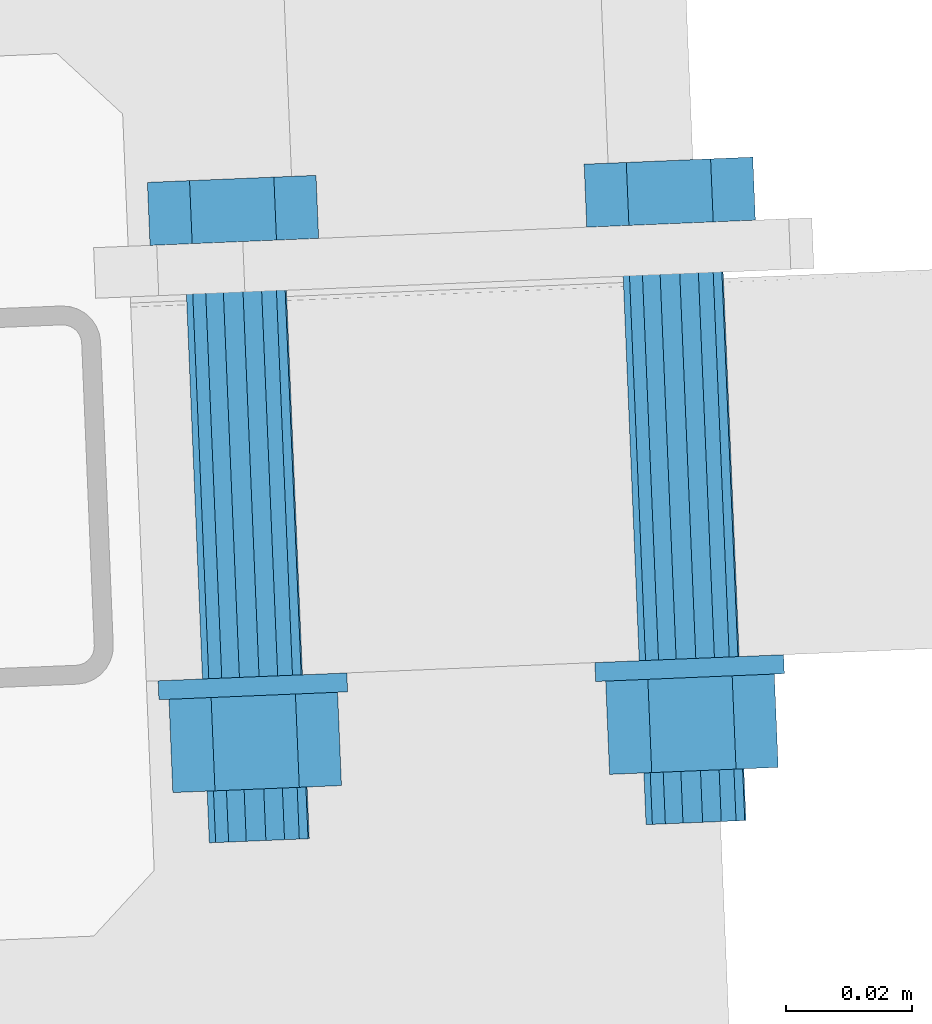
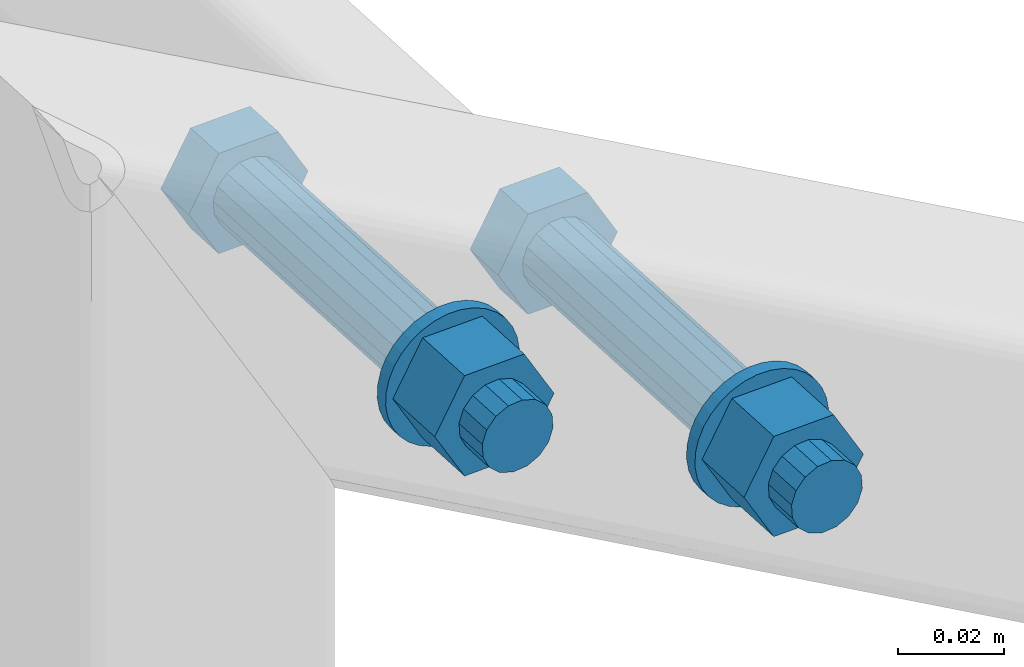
# One storey, part 81 of 288: 1 mechanical fastener.
"""IFC2X3 building model written with IfcOpenShell, lengths in millimetres."""

from ifc_helpers import new_model, entity, si_unit, converted_unit, origin_with_axes, place, context, project, spatial, faceted_brep, element, save


model = new_model("IFC2X3")

# Units and contexts
model_context = context("Model", 3, precision=1e-09, world=origin_with_axes())
ifc_project = project(units=[si_unit("LENGTHUNIT", "METRE", prefix="MILLI"), si_unit("AREAUNIT", "SQUARE_METRE"), si_unit("VOLUMEUNIT", "CUBIC_METRE"), converted_unit("PLANEANGLEUNIT", "DEGREE", entity("IfcPlaneAngleMeasure", 0.01745329), si_unit("PLANEANGLEUNIT", "RADIAN"), dimensions=[0, 0, 0, 0, 0, 0, 0])], contexts=[model_context])

# Site, building, storey
site_placement = place(None, origin_with_axes())
site = spatial("IfcSite", under=ifc_project, at=site_placement, Name="Remont ?wietlik?w nad MC w NCPP w Opolu", CompositionType="ELEMENT")
building_placement = place(site_placement, origin_with_axes())
building = spatial("IfcBuilding", under=site, at=building_placement, Name="Konstrukcja 1", CompositionType="ELEMENT")
storey_placement = place(building_placement, origin_with_axes())
storey = spatial("IfcBuildingStorey", under=building, at=storey_placement, Name="Default Storey", CompositionType="ELEMENT", Elevation=0.0)

# Mechanical fastener
mechanical_fastener_placement = place(None, origin_with_axes())
element("IfcMechanicalFastener", 1, at=mechanical_fastener_placement, inside=storey, ObjectType="-", NominalDiameter=16.0, NominalLength=95.0, context=model_context, shape_type="Brep", body=[
    faceted_brep([(-126.500600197, 956.459227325, 1239.93983739), (-126.917316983, 966.450540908, 1239.939836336), (-120.23562185, 966.72921921, 1228.356748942), (-119.818905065, 956.737905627, 1228.356749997), (-106.872239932, 967.286577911, 1228.356753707), (-106.455523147, 957.295264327, 1228.356754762), (-100.190553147, 967.565258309, 1239.939845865), (-99.773836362, 957.573944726, 1239.93984692), (-106.87224828, 967.286580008, 1251.522933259), (-106.455531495, 957.295266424, 1251.522934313), (-120.235630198, 966.729221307, 1251.522928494), (-119.818913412, 956.737907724, 1251.522929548)], [[[0, 1, 2, 3]], [[3, 2, 4, 5]], [[5, 4, 6, 7]], [[7, 6, 8, 9]], [[9, 8, 10, 11]], [[11, 10, 1, 0]], [[4, 2, 1, 10, 8, 6]], [[0, 3, 5, 7, 9, 11]]]),
    faceted_brep([(-57.278734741, 959.346322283, 1199.939862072), (-57.695451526, 969.337635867, 1199.939861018), (-51.013756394, 969.616314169, 1188.356773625), (-50.597039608, 959.625000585, 1188.356774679), (-37.650374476, 970.173672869, 1188.356778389), (-37.23365769, 960.182359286, 1188.356779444), (-30.968687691, 970.452353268, 1199.939870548), (-30.551970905, 960.461039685, 1199.939871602), (-37.650382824, 970.173674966, 1211.522957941), (-37.233666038, 960.182361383, 1211.522958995), (-51.013764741, 969.616316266, 1211.522953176), (-50.597047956, 959.625002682, 1211.52295423)], [[[0, 1, 2, 3]], [[3, 2, 4, 5]], [[5, 4, 6, 7]], [[7, 6, 8, 9]], [[9, 8, 10, 11]], [[11, 10, 1, 0]], [[4, 2, 1, 10, 8, 6]], [[0, 3, 5, 7, 9, 11]]]),
    faceted_brep([(-106.215029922, 957.305252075, 1235.939844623), (-103.339674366, 888.364954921, 1235.9398519), (-105.395997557, 888.279189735, 1233.593024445), (-108.271353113, 957.219486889, 1233.593017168), (-108.193104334, 888.162528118, 1232.212443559), (-111.06845989, 957.102825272, 1232.212436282), (-111.305160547, 888.032730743, 1232.008290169), (-114.180516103, 956.973027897, 1232.008282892), (-114.258383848, 887.909558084, 1233.011644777), (-117.133739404, 956.849855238, 1233.0116375), (-116.603172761, 887.811762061, 1235.069755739), (-119.478528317, 956.752059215, 1235.069748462), (-117.982554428, 887.754231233, 1237.869294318), (-120.857909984, 956.694528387, 1237.869287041), (-118.186530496, 887.745724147, 1240.984056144), (-121.061886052, 956.686021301, 1240.984048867), (-117.184047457, 887.787535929, 1243.939846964), (-120.059403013, 956.727833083, 1243.939839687), (-115.127724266, 887.873301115, 1246.286674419), (-118.003079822, 956.813598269, 1246.286667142), (-112.330617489, 887.989962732, 1247.667255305), (-115.205973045, 956.930259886, 1247.667248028), (-109.218561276, 888.119760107, 1247.871408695), (-112.093916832, 957.060057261, 1247.871401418), (-106.265337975, 888.242932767, 1246.868054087), (-109.140693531, 957.183229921, 1246.86804681), (-103.920549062, 888.340728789, 1244.809943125), (-106.795904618, 957.281025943, 1244.809935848), (-102.541167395, 888.398259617, 1242.010404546), (-105.416522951, 957.338556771, 1242.010397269), (-102.337191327, 888.406766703, 1238.89564272), (-105.212546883, 957.347063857, 1238.895635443)], [[[0, 1, 2, 3]], [[3, 2, 4, 5]], [[5, 4, 6, 7]], [[7, 6, 8, 9]], [[9, 8, 10, 11]], [[11, 10, 12, 13]], [[13, 12, 14, 15]], [[15, 14, 16, 17]], [[17, 16, 18, 19]], [[19, 18, 20, 21]], [[21, 20, 22, 23]], [[23, 22, 24, 25]], [[25, 24, 26, 27]], [[27, 26, 28, 29]], [[29, 28, 30, 31]], [[31, 30, 1, 0]], [[0, 3, 5, 7, 9, 11, 13, 15, 17, 19, 21, 23, 25, 27, 29, 31]], [[1, 30, 28, 26, 24, 22, 20, 18, 16, 14, 12, 10, 8, 6, 4, 2]]]),
    faceted_brep([(-36.993164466, 960.192347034, 1195.939869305), (-34.117808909, 891.25204988, 1195.939876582), (-36.1741321, 891.166284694, 1193.593049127), (-39.049487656, 960.106581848, 1193.59304185), (-38.971238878, 891.049623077, 1192.212468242), (-41.846594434, 959.989920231, 1192.212460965), (-42.083295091, 890.919825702, 1192.008314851), (-44.958650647, 959.860122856, 1192.008307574), (-45.036518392, 890.796653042, 1193.011669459), (-47.911873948, 959.736950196, 1193.011662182), (-47.381307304, 890.69885702, 1195.069780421), (-50.25666286, 959.639154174, 1195.069773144), (-48.760688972, 890.641326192, 1197.869319), (-51.636044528, 959.581623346, 1197.869311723), (-48.96466504, 890.632819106, 1200.984080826), (-51.840020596, 959.57311626, 1200.984073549), (-47.962182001, 890.674630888, 1203.939871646), (-50.837537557, 959.614928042, 1203.939864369), (-45.90585881, 890.760396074, 1206.286699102), (-48.781214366, 959.700693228, 1206.286691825), (-43.108752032, 890.877057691, 1207.667279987), (-45.984107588, 959.817354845, 1207.66727271), (-39.996695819, 891.006855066, 1207.871433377), (-42.872051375, 959.94715222, 1207.8714261), (-37.043472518, 891.130027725, 1206.868078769), (-39.918828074, 960.070324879, 1206.868071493), (-34.698683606, 891.227823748, 1204.809967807), (-37.574039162, 960.168120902, 1204.80996053), (-33.319301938, 891.285354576, 1202.010429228), (-36.194657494, 960.22565173, 1202.010421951), (-33.11532587, 891.293861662, 1198.895667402), (-35.990681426, 960.234158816, 1198.895660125)], [[[0, 1, 2, 3]], [[3, 2, 4, 5]], [[5, 4, 6, 7]], [[7, 6, 8, 9]], [[9, 8, 10, 11]], [[11, 10, 12, 13]], [[13, 12, 14, 15]], [[15, 14, 16, 17]], [[17, 16, 18, 19]], [[19, 18, 20, 21]], [[21, 20, 22, 23]], [[23, 22, 24, 25]], [[25, 24, 26, 27]], [[27, 26, 28, 29]], [[29, 28, 30, 31]], [[31, 30, 1, 0]], [[0, 3, 5, 7, 9, 11, 13, 15, 17, 19, 21, 23, 25, 27, 29, 31]], [[1, 30, 28, 26, 24, 22, 20, 18, 16, 14, 12, 10, 8, 6, 4, 2]]]),
    faceted_brep([(-97.282761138, 888.61757573, 1232.43985406), (-97.157746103, 885.620181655, 1232.439854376), (-98.869041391, 885.548806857, 1230.04966654), (-98.994056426, 888.546200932, 1230.049666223), (-101.013352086, 885.459371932, 1228.039552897), (-101.138367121, 888.456766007, 1228.039552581), (-103.508273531, 885.355313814, 1226.486760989), (-103.633288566, 888.352707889, 1226.486760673), (-106.257927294, 885.240631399, 1225.450963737), (-106.382942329, 888.238025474, 1225.450963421), (-109.156645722, 885.119731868, 1224.971966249), (-109.281660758, 888.117125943, 1224.971965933), (-112.093032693, 884.997261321, 1225.06817613), (-112.218047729, 887.994655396, 1225.068175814), (-114.954244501, 884.877926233, 1225.735896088), (-115.079259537, 887.875320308, 1225.735895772), (-117.630326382, 884.766312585, 1226.94946602), (-117.755341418, 887.76370666, 1226.949465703), (-120.01843801, 884.666709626, 1228.662249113), (-120.143453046, 887.664103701, 1228.662248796), (-122.026805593, 884.582945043, 1230.808424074), (-122.151820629, 887.580339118, 1230.808423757), (-123.578248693, 884.518237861, 1233.305514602), (-123.703263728, 887.515631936, 1233.305514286), (-124.61314622, 884.475074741, 1236.05755891), (-124.738161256, 887.472468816, 1236.057558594), (-125.091727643, 884.455114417, 1238.958797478), (-125.216742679, 887.452508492, 1238.958797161), (-124.995601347, 884.459123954, 1241.897737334), (-125.120616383, 887.456518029, 1241.897737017), (-124.328461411, 884.486949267, 1244.761436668), (-124.453476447, 887.484343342, 1244.761436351), (-123.115945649, 884.537521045, 1247.439845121), (-123.240960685, 887.53491512, 1247.439844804), (-121.404650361, 884.608895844, 1249.830032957), (-121.529665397, 887.606289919, 1249.830032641), (-119.260339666, 884.698330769, 1251.8401466), (-119.385354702, 887.695724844, 1251.840146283), (-116.765418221, 884.802388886, 1253.392938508), (-116.890433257, 887.799782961, 1253.392938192), (-114.015764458, 884.917071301, 1254.42873576), (-114.140779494, 887.914465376, 1254.428735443), (-111.11704603, 885.037970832, 1254.907733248), (-111.242061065, 888.035364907, 1254.907732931), (-108.180659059, 885.160441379, 1254.811523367), (-108.305674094, 888.157835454, 1254.81152305), (-105.31944725, 885.279776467, 1254.143803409), (-105.444462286, 888.277170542, 1254.143803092), (-102.643365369, 885.391390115, 1252.930233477), (-102.768380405, 888.38878419, 1252.930233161), (-100.255253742, 885.490993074, 1251.217450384), (-100.380268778, 888.488387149, 1251.217450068), (-98.246886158, 885.574757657, 1249.071275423), (-98.371901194, 888.572151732, 1249.071275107), (-96.695443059, 885.63946484, 1246.574184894), (-96.820458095, 888.636858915, 1246.574184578), (-95.660545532, 885.68262796, 1243.822140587), (-95.785560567, 888.680022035, 1243.82214027), (-95.181964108, 885.702588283, 1240.920902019), (-95.306979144, 888.699982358, 1240.920901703), (-95.278090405, 885.698578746, 1237.981962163), (-95.40310544, 888.695972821, 1237.981961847), (-95.945230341, 885.670753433, 1235.118262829), (-96.070245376, 888.668147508, 1235.118262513)], [[[0, 1, 2, 3]], [[3, 2, 4, 5]], [[5, 4, 6, 7]], [[7, 6, 8, 9]], [[9, 8, 10, 11]], [[11, 10, 12, 13]], [[13, 12, 14, 15]], [[15, 14, 16, 17]], [[17, 16, 18, 19]], [[19, 18, 20, 21]], [[21, 20, 22, 23]], [[23, 22, 24, 25]], [[25, 24, 26, 27]], [[27, 26, 28, 29]], [[29, 28, 30, 31]], [[31, 30, 32, 33]], [[33, 32, 34, 35]], [[35, 34, 36, 37]], [[37, 36, 38, 39]], [[39, 38, 40, 41]], [[41, 40, 42, 43]], [[43, 42, 44, 45]], [[45, 44, 46, 47]], [[47, 46, 48, 49]], [[49, 48, 50, 51]], [[51, 50, 52, 53]], [[53, 52, 54, 55]], [[55, 54, 56, 57]], [[57, 56, 58, 59]], [[59, 58, 60, 61]], [[61, 60, 62, 63]], [[63, 62, 1, 0]], [[0, 3, 5, 7, 9, 11, 13, 15, 17, 19, 21, 23, 25, 27, 29, 31, 33, 35, 37, 39, 41, 43, 45, 47, 49, 51, 53, 55, 57, 59, 61, 63]], [[1, 62, 60, 58, 56, 54, 52, 50, 48, 46, 44, 42, 40, 38, 36, 34, 32, 30, 28, 26, 24, 22, 20, 18, 16, 14, 12, 10, 8, 6, 4, 2]]]),
    faceted_brep([(-28.060895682, 891.504670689, 1192.439878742), (-27.935880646, 888.507276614, 1192.439879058), (-29.647175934, 888.435901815, 1190.049691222), (-29.77219097, 891.43329589, 1190.049690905), (-31.791486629, 888.34646689, 1188.039577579), (-31.916501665, 891.343860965, 1188.039577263), (-34.286408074, 888.242408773, 1186.486785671), (-34.41142311, 891.239802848, 1186.486785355), (-37.036061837, 888.127726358, 1185.450988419), (-37.161076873, 891.125120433, 1185.450988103), (-39.934780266, 888.006826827, 1184.971990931), (-40.059795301, 891.004220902, 1184.971990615), (-42.871167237, 887.88435628, 1185.068200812), (-42.996182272, 890.881750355, 1185.068200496), (-45.732379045, 887.765021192, 1185.73592077), (-45.857394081, 890.762415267, 1185.735920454), (-48.408460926, 887.653407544, 1186.949490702), (-48.533475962, 890.650801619, 1186.949490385), (-50.796572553, 887.553804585, 1188.662273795), (-50.921587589, 890.55119866, 1188.662273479), (-52.804940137, 887.470040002, 1190.808448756), (-52.929955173, 890.467434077, 1190.808448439), (-54.356383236, 887.405332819, 1193.305539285), (-54.481398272, 890.402726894, 1193.305538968), (-55.391280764, 887.362169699, 1196.057583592), (-55.516295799, 890.359563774, 1196.057583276), (-55.869862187, 887.342209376, 1198.95882216), (-55.994877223, 890.339603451, 1198.958821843), (-55.773735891, 887.346218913, 1201.897762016), (-55.898750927, 890.343612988, 1201.897761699), (-55.106595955, 887.374044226, 1204.76146135), (-55.23161099, 890.371438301, 1204.761461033), (-53.894080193, 887.424616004, 1207.439869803), (-54.019095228, 890.422010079, 1207.439869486), (-52.182784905, 887.495990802, 1209.830057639), (-52.30779994, 890.493384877, 1209.830057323), (-50.03847421, 887.585425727, 1211.840171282), (-50.163489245, 890.582819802, 1211.840170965), (-47.543552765, 887.689483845, 1213.39296319), (-47.6685678, 890.68687792, 1213.392962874), (-44.793899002, 887.80416626, 1214.428760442), (-44.918914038, 890.801560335, 1214.428760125), (-41.895180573, 887.925065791, 1214.90775793), (-42.020195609, 890.922459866, 1214.907757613), (-38.958793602, 888.047536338, 1214.811548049), (-39.083808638, 891.044930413, 1214.811547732), (-36.097581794, 888.166871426, 1214.143828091), (-36.22259683, 891.164265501, 1214.143827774), (-33.421499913, 888.278485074, 1212.930258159), (-33.546514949, 891.275879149, 1212.930257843), (-31.033388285, 888.378088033, 1211.217475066), (-31.158403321, 891.375482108, 1211.21747475), (-29.025020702, 888.461852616, 1209.071300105), (-29.150035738, 891.459246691, 1209.071299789), (-27.473577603, 888.526559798, 1206.574209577), (-27.598592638, 891.523953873, 1206.57420926), (-26.438680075, 888.569722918, 1203.822165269), (-26.563695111, 891.567116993, 1203.822164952), (-25.960098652, 888.589683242, 1200.920926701), (-26.085113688, 891.587077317, 1200.920926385), (-26.056224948, 888.585673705, 1197.981986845), (-26.181239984, 891.58306778, 1197.981986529), (-26.723364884, 888.557848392, 1195.118287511), (-26.84837992, 891.555242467, 1195.118287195)], [[[0, 1, 2, 3]], [[3, 2, 4, 5]], [[5, 4, 6, 7]], [[7, 6, 8, 9]], [[9, 8, 10, 11]], [[11, 10, 12, 13]], [[13, 12, 14, 15]], [[15, 14, 16, 17]], [[17, 16, 18, 19]], [[19, 18, 20, 21]], [[21, 20, 22, 23]], [[23, 22, 24, 25]], [[25, 24, 26, 27]], [[27, 26, 28, 29]], [[29, 28, 30, 31]], [[31, 30, 32, 33]], [[33, 32, 34, 35]], [[35, 34, 36, 37]], [[37, 36, 38, 39]], [[39, 38, 40, 41]], [[41, 40, 42, 43]], [[43, 42, 44, 45]], [[45, 44, 46, 47]], [[47, 46, 48, 49]], [[49, 48, 50, 51]], [[51, 50, 52, 53]], [[53, 52, 54, 55]], [[55, 54, 56, 57]], [[57, 56, 58, 59]], [[59, 58, 60, 61]], [[61, 60, 62, 63]], [[63, 62, 1, 0]], [[0, 3, 5, 7, 9, 11, 13, 15, 17, 19, 21, 23, 25, 27, 29, 31, 33, 35, 37, 39, 41, 43, 45, 47, 49, 51, 53, 55, 57, 59, 61, 63]], [[1, 62, 60, 58, 56, 54, 52, 50, 48, 46, 44, 42, 40, 38, 36, 34, 32, 30, 28, 26, 24, 22, 20, 18, 16, 14, 12, 10, 8, 6, 4, 2]]]),
    faceted_brep([(-122.883486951, 869.734348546, 1239.939846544), (-123.500227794, 884.52149265, 1239.939844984), (-116.818532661, 884.800170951, 1228.35675759), (-116.201791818, 870.013026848, 1228.356759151), (-103.455150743, 885.357529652, 1228.356762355), (-102.838409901, 870.570385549, 1228.356763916), (-96.773463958, 885.636210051, 1239.939854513), (-96.156723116, 870.849065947, 1239.939856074), (-103.455159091, 885.357531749, 1251.522941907), (-102.838418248, 870.570387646, 1251.522943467), (-116.818541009, 884.800173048, 1251.522937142), (-116.201800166, 870.013028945, 1251.522938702)], [[[0, 1, 2, 3]], [[3, 2, 4, 5]], [[5, 4, 6, 7]], [[7, 6, 8, 9]], [[9, 8, 10, 11]], [[11, 10, 1, 0]], [[4, 2, 1, 10, 8, 6]], [[0, 3, 5, 7, 9, 11]]]),
    faceted_brep([(-53.661621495, 872.621443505, 1199.939871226), (-54.278362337, 887.408587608, 1199.939869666), (-47.596667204, 887.68726591, 1188.356782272), (-46.979926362, 872.900121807, 1188.356783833), (-34.233285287, 888.244624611, 1188.356787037), (-33.616544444, 873.457480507, 1188.356788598), (-27.551598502, 888.523305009, 1199.939879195), (-26.934857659, 873.736160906, 1199.939880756), (-34.233293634, 888.244626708, 1211.522966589), (-33.616552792, 873.457482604, 1211.522968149), (-47.596675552, 887.687268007, 1211.522961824), (-46.97993471, 872.900123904, 1211.522963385)], [[[0, 1, 2, 3]], [[3, 2, 4, 5]], [[5, 4, 6, 7]], [[7, 6, 8, 9]], [[9, 8, 10, 11]], [[11, 10, 1, 0]], [[4, 2, 1, 10, 8, 6]], [[0, 3, 5, 7, 9, 11]]]),
    faceted_brep([(-102.5979203, 870.580460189, 1235.939853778), (-102.256222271, 862.38781648, 1235.939854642), (-104.312545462, 862.302051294, 1233.593027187), (-104.654243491, 870.494695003, 1233.593026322), (-107.10965224, 862.185389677, 1232.212446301), (-107.451350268, 870.378033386, 1232.212445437), (-110.221708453, 862.055592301, 1232.008292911), (-110.563406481, 870.248236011, 1232.008292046), (-113.174931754, 861.932419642, 1233.011647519), (-113.516629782, 870.125063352, 1233.011646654), (-115.519720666, 861.83462362, 1235.069758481), (-115.861418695, 870.027267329, 1235.069757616), (-116.899102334, 861.777092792, 1237.86929706), (-117.240800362, 869.969736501, 1237.869296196), (-117.103078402, 861.768585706, 1240.984058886), (-117.44477643, 869.961229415, 1240.984058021), (-116.100595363, 861.810397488, 1243.939849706), (-116.442293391, 870.003041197, 1243.939848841), (-114.044272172, 861.896162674, 1246.286677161), (-114.3859702, 870.088806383, 1246.286676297), (-111.247165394, 862.012824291, 1247.667258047), (-111.588863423, 870.205468, 1247.667257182), (-108.135109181, 862.142621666, 1247.871411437), (-108.47680721, 870.335265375, 1247.871410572), (-105.18188588, 862.265794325, 1246.868056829), (-105.523583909, 870.458438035, 1246.868055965), (-102.837096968, 862.363590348, 1244.809945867), (-103.178794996, 870.556234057, 1244.809945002), (-101.4577153, 862.421121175, 1242.010407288), (-101.799413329, 870.613764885, 1242.010406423), (-101.253739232, 862.429628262, 1238.895645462), (-101.595437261, 870.622271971, 1238.895644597)], [[[0, 1, 2, 3]], [[3, 2, 4, 5]], [[5, 4, 6, 7]], [[7, 6, 8, 9]], [[9, 8, 10, 11]], [[11, 10, 12, 13]], [[13, 12, 14, 15]], [[15, 14, 16, 17]], [[17, 16, 18, 19]], [[19, 18, 20, 21]], [[21, 20, 22, 23]], [[23, 22, 24, 25]], [[25, 24, 26, 27]], [[27, 26, 28, 29]], [[29, 28, 30, 31]], [[31, 30, 1, 0]], [[0, 3, 5, 7, 9, 11, 13, 15, 17, 19, 21, 23, 25, 27, 29, 31]], [[1, 30, 28, 26, 24, 22, 20, 18, 16, 14, 12, 10, 8, 6, 4, 2]]]),
    faceted_brep([(-33.376054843, 873.467555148, 1195.93987846), (-33.034356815, 865.274911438, 1195.939879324), (-35.090680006, 865.189146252, 1193.593051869), (-35.432378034, 873.381789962, 1193.593051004), (-37.887786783, 865.072484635, 1192.212470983), (-38.229484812, 873.265128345, 1192.212470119), (-40.999842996, 864.94268726, 1192.008317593), (-41.341541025, 873.13533097, 1192.008316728), (-43.953066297, 864.819514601, 1193.011672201), (-44.294764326, 873.01215831, 1193.011671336), (-46.29785521, 864.721718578, 1195.069783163), (-46.639553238, 872.914362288, 1195.069782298), (-47.677236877, 864.664187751, 1197.869321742), (-48.018934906, 872.85683146, 1197.869320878), (-47.881212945, 864.655680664, 1200.984083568), (-48.222910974, 872.848324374, 1200.984082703), (-46.878729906, 864.697492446, 1203.939874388), (-47.220427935, 872.890136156, 1203.939873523), (-44.822406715, 864.783257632, 1206.286701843), (-45.164104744, 872.975901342, 1206.286700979), (-42.025299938, 864.899919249, 1207.667282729), (-42.366997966, 873.092562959, 1207.667281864), (-38.913243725, 865.029716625, 1207.871436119), (-39.254941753, 873.222360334, 1207.871435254), (-35.960020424, 865.152889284, 1206.868081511), (-36.301718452, 873.345532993, 1206.868080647), (-33.615231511, 865.250685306, 1204.809970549), (-33.95692954, 873.443329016, 1204.809969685), (-32.235849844, 865.308216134, 1202.01043197), (-32.577547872, 873.500859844, 1202.010431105), (-32.031873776, 865.31672322, 1198.895670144), (-32.373571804, 873.50936693, 1198.895669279)], [[[0, 1, 2, 3]], [[3, 2, 4, 5]], [[5, 4, 6, 7]], [[7, 6, 8, 9]], [[9, 8, 10, 11]], [[11, 10, 12, 13]], [[13, 12, 14, 15]], [[15, 14, 16, 17]], [[17, 16, 18, 19]], [[19, 18, 20, 21]], [[21, 20, 22, 23]], [[23, 22, 24, 25]], [[25, 24, 26, 27]], [[27, 26, 28, 29]], [[29, 28, 30, 31]], [[31, 30, 1, 0]], [[0, 3, 5, 7, 9, 11, 13, 15, 17, 19, 21, 23, 25, 27, 29, 31]], [[1, 30, 28, 26, 24, 22, 20, 18, 16, 14, 12, 10, 8, 6, 4, 2]]]),
])

save(model, "model.ifc")
